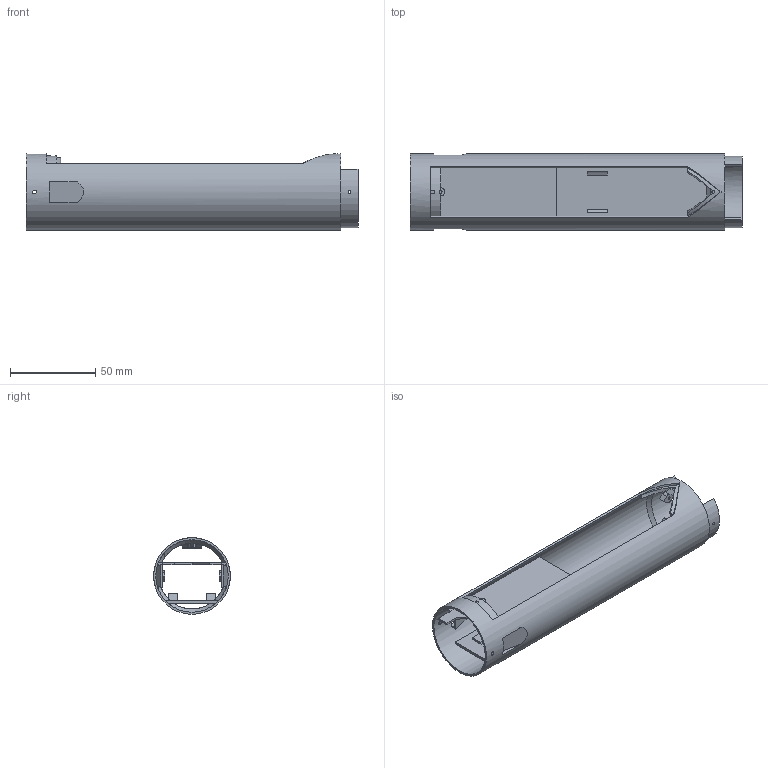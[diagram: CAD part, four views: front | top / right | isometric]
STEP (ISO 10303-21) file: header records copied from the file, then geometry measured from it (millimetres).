
FILE_DESCRIPTION(('Open CASCADE Model'),'2;1');
FILE_NAME('Open CASCADE Shape Model','2026-10-04T08:08:20',('Author'),( 'Open CASCADE'),'Open CASCADE STEP processor 7.9','Open CASCADE 7.9' ,'Unknown');
FILE_SCHEMA(('AUTOMOTIVE_DESIGN { 1 0 10303 214 1 1 1 1 }'));
Length unit declared in the file: millimetre
Products named in the file (1): Open CASCADE STEP translator 7.9 9
Bounding box: 195 x 45 x 45 mm (x, y, z)
Volume: 39859 mm3; surface area: 60569.1 mm2
Topology: 1 solids, 1 shells, 158 faces, 475 edges, 311 vertices
Faces by surface type: plane 109, cylinder 32, bspline 12, cone 5
Full cylindrical faces by diameter (mm): 1.6 x4, 2.2 x2, 42.6 x1, 45 x1
Entity records: 15681 total; most frequent: CARTESIAN_POINT 7107, DIRECTION 1323, ORIENTED_EDGE 952, PCURVE 950, DEFINITIONAL_REPRESENTATION 950, LINE 695, VECTOR 695, B_SPLINE_CURVE_WITH_KNOTS 491
